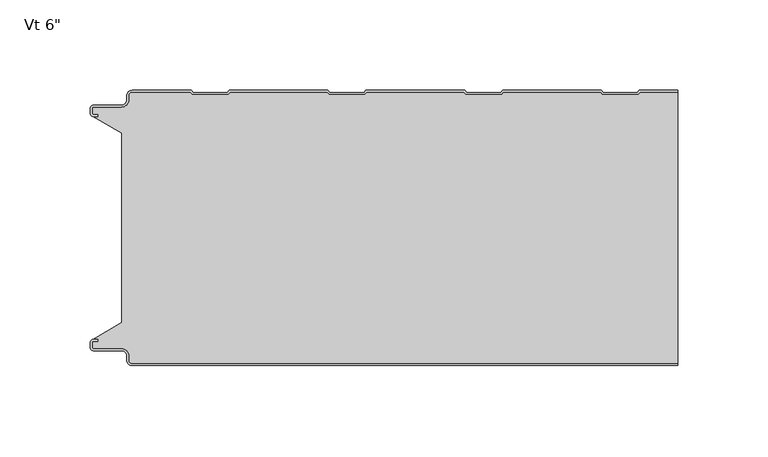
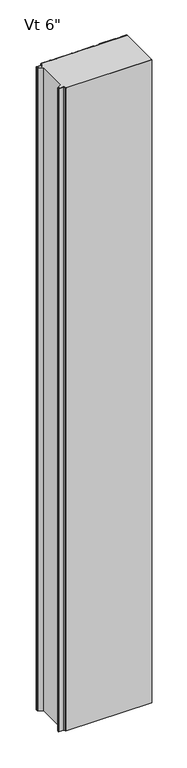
"""IFC4 building model written with IfcOpenShell, lengths in millimetres: plate geometry."""

from ifc_helpers import new_model, si_unit, frame, origin, place, context, project, spatial, polyline, circle_curve, source, transform, mapped, element, save
from ifc_brep_helpers import plane_surface, cylinder_surface, revolved_surface, advanced_brep


def plate_3bc6385e(model_context):
    return source(origin(), model_context, "Body", "AdvancedBrep", [
        advanced_brep(
        [(133.0522163, -1.0, 2400.0), (153.7374998, -1.0, 2400.0), (153.7374998, 0.0, 2400.0), (132.6097769, 0.0, 2400.0), (131.5372521, -1.1911595, 2400.0), (112.6391361, -1.1911595, 2400.0), (111.5666112, 0.0, 2400.0), (56.9871567, 0.0, 2400.0), (55.9146318, -1.1911595, 2400.0), (37.0165158, -1.1911595, 2400.0), (35.943991, 0.0, 2400.0), (-18.6354636, 0.0, 2400.0), (-19.7079884, -1.1911595, 2400.0), (-38.6061045, -1.1911595, 2400.0), (-39.6786293, 0.0, 2400.0), (-94.2580838, 0.0, 2400.0), (-95.3306087, -1.1911595, 2400.0), (-114.2287247, -1.1911595, 2400.0), (-115.3012496, 0.0, 2400.0), (-147.9102806, 0.0, 2400.0), (-150.8875472, -2.9772904, 2400.0), (-150.8875472, -5.2691742, 2400.0), (-153.8648158, -8.2464427, 2400.0), (-169.4612418, -8.2464427, 2400.0), (-171.0491183, -9.8343193, 2400.0), (-171.0491183, -12.905868, 2400.0), (-169.4612418, -14.4937445, 2400.0), (-167.1062063, -14.4937445, 2400.0), (-167.1062063, -13.4937445, 2400.0), (-169.4612418, -13.4937445, 2400.0), (-170.0491183, -12.905868, 2400.0), (-170.0491183, -9.8343193, 2400.0), (-169.4612418, -9.2464427, 2400.0), (-153.8648158, -9.2464427, 2400.0), (-149.8875472, -5.2691742, 2400.0), (-149.8875472, -2.9772904, 2400.0), (-147.9102799, -1.0000218, 2400.0), (-115.7436889, -1.0, 2400.0), (-114.671164, -2.1911595, 2400.0), (-94.8881694, -2.1911595, 2400.0), (-93.8156445, -1.0, 2400.0), (-40.1210686, -1.0, 2400.0), (-39.0485438, -2.1911595, 2400.0), (-19.2655491, -2.1911595, 2400.0), (-18.1930243, -1.0, 2400.0), (35.5015516, -1.0, 2400.0), (36.5740765, -2.1911595, 2400.0), (56.3570712, -2.1911595, 2400.0), (57.429596, -1.0, 2400.0), (111.1241719, -1.0, 2400.0), (112.1966967, -2.1911595, 2400.0), (131.9796914, -2.1911595, 2400.0), (132.6097769, 0.0, 0.0), (153.7374998, 0.0, 0.0), (153.7374998, -1.0, 0.0), (133.0522163, -1.0, 0.0), (131.9796914, -2.1911595, 0.0), (112.1966967, -2.1911595, 0.0), (111.1241719, -1.0, 0.0), (57.429596, -1.0, 0.0), (56.3570712, -2.1911595, 0.0), (36.5740765, -2.1911595, 0.0), (35.5015516, -1.0, 0.0), (-18.1930243, -1.0, 0.0), (-19.2655491, -2.1911595, 0.0), (-39.0485438, -2.1911595, 0.0), (-40.1210686, -1.0, 0.0), (-93.8156445, -1.0, 0.0), (-94.8881694, -2.1911595, 0.0), (-114.671164, -2.1911595, 0.0), (-115.7436889, -1.0, 0.0), (-147.9102799, -1.0, 0.0), (-149.8875472, -2.9772904, 0.0), (-149.8875472, -5.2691742, 0.0), (-153.8648158, -9.2464427, 0.0), (-169.4612418, -9.2464427, 0.0), (-170.0491183, -9.8343193, 0.0), (-170.0491183, -12.905868, 0.0), (-169.4612418, -13.4937445, 0.0), (-167.1062063, -13.4937445, 0.0), (-167.1062063, -14.4937445, 0.0), (-169.4612418, -14.4937445, 0.0), (-171.0491183, -12.905868, 0.0), (-171.0491183, -9.8343193, 0.0), (-169.4612418, -8.2464427, 0.0), (-153.8648158, -8.2464427, 0.0), (-150.8875472, -5.2691742, 0.0), (-150.8875472, -2.9772904, 0.0), (-147.9102806, -2.18e-05, 0.0), (-115.3012496, 0.0, 0.0), (-114.2287247, -1.1911595, 0.0), (-95.3306087, -1.1911595, 0.0), (-94.2580838, 0.0, 0.0), (-39.6786293, 0.0, 0.0), (-38.6061045, -1.1911595, 0.0), (-19.7079884, -1.1911595, 0.0), (-18.6354636, 0.0, 0.0), (35.943991, 0.0, 0.0), (37.0165158, -1.1911595, 0.0), (55.9146318, -1.1911595, 0.0), (56.9871567, 0.0, 0.0), (111.5666112, 0.0, 0.0), (112.6391361, -1.1911595, 0.0), (131.5372521, -1.1911595, 0.0)],
        [
            (0, 1),
            (1, 2),
            (2, 3),
            (3, 4),
            (4, 5),
            (5, 6),
            (6, 7),
            (7, 8),
            (8, 9),
            (9, 10),
            (10, 11),
            (11, 12),
            (12, 13),
            (13, 14),
            (14, 15),
            (15, 16),
            (16, 17),
            (17, 18),
            (18, 19),
            (19, 20, circle_curve(frame((-147.9102787, -2.9772904, 2400.0), z_axis=(0.0, 0.0, 1.0), x_axis=(0.0, 1.0, 0.0)), 2.9772685)),
            (20, 21),
            (21, 22, circle_curve(frame((-153.8648158, -5.2691742, 2400.0), z_axis=(0.0, 0.0, -1.0), x_axis=(0.0, 1.0, 0.0)), 2.9772685)),
            (22, 23),
            (23, 24, circle_curve(frame((-169.4612418, -9.8343193, 2400.0), z_axis=(0.0, 0.0, 1.0), x_axis=(0.0, 1.0, 0.0)), 1.5878765)),
            (24, 25),
            (25, 26, circle_curve(frame((-169.4612418, -12.905868, 2400.0), z_axis=(0.0, 0.0, 1.0), x_axis=(0.0, 1.0, 0.0)), 1.5878765)),
            (26, 27),
            (27, 28),
            (28, 29),
            (29, 30, circle_curve(frame((-169.4612418, -12.905868, 2400.0), z_axis=(0.0, 0.0, -1.0), x_axis=(0.0, 1.0, 0.0)), 0.5878765)),
            (30, 31),
            (31, 32, circle_curve(frame((-169.4612418, -9.8343193, 2400.0), z_axis=(0.0, 0.0, -1.0), x_axis=(0.0, 1.0, 0.0)), 0.5878765)),
            (32, 33),
            (33, 34, circle_curve(frame((-153.8648158, -5.2691742, 2400.0), z_axis=(0.0, 0.0, 1.0), x_axis=(0.0, 1.0, 0.0)), 3.9772685)),
            (34, 35),
            (35, 36, circle_curve(frame((-147.9102787, -2.9772904, 2400.0), z_axis=(0.0, 0.0, -1.0), x_axis=(0.0, 1.0, 0.0)), 1.9772685)),
            (36, 37),
            (37, 38),
            (38, 39),
            (39, 40),
            (40, 41),
            (41, 42),
            (42, 43),
            (43, 44),
            (44, 45),
            (45, 46),
            (46, 47),
            (47, 48),
            (48, 49),
            (49, 50),
            (50, 51),
            (51, 0),
            (52, 53),
            (53, 54),
            (54, 55),
            (55, 56),
            (56, 57),
            (57, 58),
            (58, 59),
            (59, 60),
            (60, 61),
            (61, 62),
            (62, 63),
            (63, 64),
            (64, 65),
            (65, 66),
            (66, 67),
            (67, 68),
            (68, 69),
            (69, 70),
            (70, 71),
            (71, 72, circle_curve(frame((-147.9102787, -2.9772904, 0.0), z_axis=(0.0, 0.0, 1.0), x_axis=(0.0, 1.0, 0.0)), 1.9772685)),
            (72, 73),
            (73, 74, circle_curve(frame((-153.8648158, -5.2691742, 0.0), z_axis=(0.0, 0.0, -1.0), x_axis=(0.0, 1.0, 0.0)), 3.9772685)),
            (74, 75),
            (75, 76, circle_curve(frame((-169.4612418, -9.8343193, 0.0), z_axis=(0.0, 0.0, 1.0), x_axis=(0.0, 1.0, 0.0)), 0.5878765)),
            (76, 77),
            (77, 78, circle_curve(frame((-169.4612418, -12.905868, 0.0), z_axis=(0.0, 0.0, 1.0), x_axis=(0.0, 1.0, 0.0)), 0.5878765)),
            (78, 79),
            (79, 80),
            (80, 81),
            (81, 82, circle_curve(frame((-169.4612418, -12.905868, 0.0), z_axis=(0.0, 0.0, -1.0), x_axis=(0.0, 1.0, 0.0)), 1.5878765)),
            (82, 83),
            (83, 84, circle_curve(frame((-169.4612418, -9.8343193, 0.0), z_axis=(0.0, 0.0, -1.0), x_axis=(0.0, 1.0, 0.0)), 1.5878765)),
            (84, 85),
            (85, 86, circle_curve(frame((-153.8648158, -5.2691742, 0.0), z_axis=(0.0, 0.0, 1.0), x_axis=(0.0, 1.0, 0.0)), 2.9772685)),
            (86, 87),
            (87, 88, circle_curve(frame((-147.9102787, -2.9772904, 0.0), z_axis=(0.0, 0.0, -1.0), x_axis=(0.0, 1.0, 0.0)), 2.9772685)),
            (88, 89),
            (89, 90),
            (90, 91),
            (91, 92),
            (92, 93),
            (93, 94),
            (94, 95),
            (95, 96),
            (96, 97),
            (97, 98),
            (98, 99),
            (99, 100),
            (100, 101),
            (101, 102),
            (102, 103),
            (103, 52),
            (54, 1),
            (0, 55),
            (51, 56),
            (50, 57),
            (49, 58),
            (48, 59),
            (47, 60),
            (46, 61),
            (45, 62),
            (44, 63),
            (43, 64),
            (42, 65),
            (41, 66),
            (40, 67),
            (39, 68),
            (38, 69),
            (37, 70),
            (36, 71),
            (35, 72),
            (34, 73),
            (33, 74),
            (32, 75),
            (31, 76),
            (30, 77),
            (29, 78),
            (28, 79),
            (27, 80),
            (26, 81),
            (25, 82),
            (24, 83),
            (23, 84),
            (22, 85),
            (21, 86),
            (20, 87),
            (19, 88),
            (18, 89),
            (17, 90),
            (16, 91),
            (15, 92),
            (14, 93),
            (13, 94),
            (12, 95),
            (11, 96),
            (10, 97),
            (9, 98),
            (8, 99),
            (7, 100),
            (6, 101),
            (5, 102),
            (4, 103),
            (3, 52),
            (2, 53),
        ],
        [
            plane_surface(frame((422.5250002, 0.0, 2400.0), z_axis=(0.0, 0.0, 1.0), x_axis=(0.0, 1.0, 0.0))),
            plane_surface(frame((422.5250002, 0.0, 0.0), z_axis=(0.0, 0.0, -1.0), x_axis=(0.0, 1.0, 0.0))),
            plane_surface(frame((186.7467922, -1.0, 2400.0), z_axis=(0.0, -1.0, 0.0), x_axis=(0.0, 0.0, -1.0))),
            plane_surface(frame((133.0522163, -1.0, 2400.0), z_axis=(0.7431448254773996, -0.6691306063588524, 0.0), x_axis=(0.0, 0.0, -1.0))),
            plane_surface(frame((131.9796914, -2.1911595, 2400.0), z_axis=(0.0, -1.0, 0.0), x_axis=(0.0, 0.0, -1.0))),
            plane_surface(frame((112.1966967, -2.1911595, 2400.0), z_axis=(-0.7431448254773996, -0.6691306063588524, 0.0), x_axis=(0.0, 0.0, -1.0))),
            plane_surface(frame((111.1241719, -1.0, 2400.0), z_axis=(0.0, -1.0, 0.0), x_axis=(0.0, 0.0, -1.0))),
            plane_surface(frame((57.429596, -1.0, 2400.0), z_axis=(0.7431448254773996, -0.6691306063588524, 0.0), x_axis=(0.0, 0.0, -1.0))),
            plane_surface(frame((56.3570712, -2.1911595, 2400.0), z_axis=(0.0, -1.0, 0.0), x_axis=(0.0, 0.0, -1.0))),
            plane_surface(frame((36.5740765, -2.1911595, 2400.0), z_axis=(-0.7431448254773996, -0.6691306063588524, 0.0), x_axis=(0.0, 0.0, -1.0))),
            plane_surface(frame((35.5015516, -1.0, 2400.0), z_axis=(0.0, -1.0, 0.0), x_axis=(0.0, 0.0, -1.0))),
            plane_surface(frame((-18.1930243, -1.0, 2400.0), z_axis=(0.7431448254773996, -0.6691306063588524, 0.0), x_axis=(0.0, 0.0, -1.0))),
            plane_surface(frame((-19.2655491, -2.1911595, 2400.0), z_axis=(0.0, -1.0, 0.0), x_axis=(0.0, 0.0, -1.0))),
            plane_surface(frame((-39.0485438, -2.1911595, 2400.0), z_axis=(-0.7431448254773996, -0.6691306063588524, 0.0), x_axis=(0.0, 0.0, -1.0))),
            plane_surface(frame((-40.1210686, -1.0, 2400.0), z_axis=(0.0, -1.0, 0.0), x_axis=(0.0, 0.0, -1.0))),
            plane_surface(frame((-93.8156445, -1.0, 2400.0), z_axis=(0.7431448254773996, -0.6691306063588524, 0.0), x_axis=(0.0, 0.0, -1.0))),
            plane_surface(frame((-94.8881694, -2.1911595, 2400.0), z_axis=(0.0, -1.0, 0.0), x_axis=(0.0, 0.0, -1.0))),
            plane_surface(frame((-114.671164, -2.1911595, 2400.0), z_axis=(-0.7431448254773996, -0.6691306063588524, 0.0), x_axis=(0.0, 0.0, -1.0))),
            plane_surface(frame((-115.7436889, -1.0, 2400.0), z_axis=(0.0, -1.0, 0.0), x_axis=(0.0, 0.0, -1.0))),
            revolved_surface(polyline([(-147.9102787, -1.0000218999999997, 0.0), (-147.9102787, -1.0000218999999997, 2400.0)]), (-147.9102787, -2.9772904, 2400.0), (0.0, 0.0, -1.0)),
            plane_surface(frame((-149.8875472, -2.9772904, 2400.0), z_axis=(1.0, 0.0, 0.0), x_axis=(0.0, 0.0, -1.0))),
            cylinder_surface(frame((-153.8648158, -5.2691742, 2400.0), z_axis=(0.0, 0.0, 1.0), x_axis=(0.0, 1.0, 0.0)), 3.9772685),
            plane_surface(frame((-153.8648158, -9.2464427, 2400.0), z_axis=(0.0, -1.0, 0.0), x_axis=(0.0, 0.0, -1.0))),
            revolved_surface(polyline([(-169.4612418, -9.2464428, 0.0), (-169.4612418, -9.2464428, 2400.0)]), (-169.4612418, -9.8343193, 2400.0), (0.0, 0.0, -1.0)),
            plane_surface(frame((-170.0491183, -9.8343193, 2400.0), z_axis=(1.0, 0.0, 0.0), x_axis=(0.0, 0.0, -1.0))),
            revolved_surface(polyline([(-169.4612418, -12.3179915, 0.0), (-169.4612418, -12.3179915, 2400.0)]), (-169.4612418, -12.905868, 2400.0), (0.0, 0.0, -1.0)),
            plane_surface(frame((-169.4612418, -13.4937445, 2400.0), z_axis=(0.0, 1.0, 0.0), x_axis=(0.0, 0.0, -1.0))),
            plane_surface(frame((-167.1062063, -13.4937445, 2400.0), z_axis=(1.0, 0.0, 0.0), x_axis=(0.0, 0.0, -1.0))),
            plane_surface(frame((-167.1062063, -14.4937445, 2400.0), z_axis=(0.0, -1.0, 0.0), x_axis=(0.0, 0.0, -1.0))),
            cylinder_surface(frame((-169.4612418, -12.905868, 2400.0), z_axis=(0.0, 0.0, 1.0), x_axis=(0.0, 1.0, 0.0)), 1.5878765),
            plane_surface(frame((-171.0491183, -12.905868, 2400.0), z_axis=(-1.0, 0.0, 0.0), x_axis=(0.0, 0.0, -1.0))),
            cylinder_surface(frame((-169.4612418, -9.8343193, 2400.0), z_axis=(0.0, 0.0, 1.0), x_axis=(0.0, 1.0, 0.0)), 1.5878765),
            plane_surface(frame((-169.4612418, -8.2464427, 2400.0), z_axis=(0.0, 1.0, 0.0), x_axis=(0.0, 0.0, -1.0))),
            revolved_surface(polyline([(-153.8648158, -2.2919057, 0.0), (-153.8648158, -2.2919057, 2400.0)]), (-153.8648158, -5.2691742, 2400.0), (0.0, 0.0, -1.0)),
            plane_surface(frame((-150.8875472, -5.2691742, 2400.0), z_axis=(-1.0, 0.0, 0.0), x_axis=(0.0, 0.0, -1.0))),
            cylinder_surface(frame((-147.9102787, -2.9772904, 2400.0), z_axis=(0.0, 0.0, 1.0), x_axis=(0.0, 1.0, 0.0)), 2.9772685),
            plane_surface(frame((-147.9102806, 0.0, 2400.0), z_axis=(0.0, 1.0, 0.0), x_axis=(0.0, 0.0, -1.0))),
            plane_surface(frame((-115.3012496, 0.0, 2400.0), z_axis=(0.7431448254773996, 0.6691306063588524, 0.0), x_axis=(0.0, 0.0, -1.0))),
            plane_surface(frame((-114.2287247, -1.1911595, 2400.0), z_axis=(0.0, 1.0, 0.0), x_axis=(0.0, 0.0, -1.0))),
            plane_surface(frame((-95.3306087, -1.1911595, 2400.0), z_axis=(-0.7431448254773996, 0.6691306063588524, 0.0), x_axis=(0.0, 0.0, -1.0))),
            plane_surface(frame((-94.2580838, 0.0, 2400.0), z_axis=(0.0, 1.0, 0.0), x_axis=(0.0, 0.0, -1.0))),
            plane_surface(frame((-39.6786293, 0.0, 2400.0), z_axis=(0.7431448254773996, 0.6691306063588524, 0.0), x_axis=(0.0, 0.0, -1.0))),
            plane_surface(frame((-38.6061045, -1.1911595, 2400.0), z_axis=(0.0, 1.0, 0.0), x_axis=(0.0, 0.0, -1.0))),
            plane_surface(frame((-19.7079884, -1.1911595, 2400.0), z_axis=(-0.7431448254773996, 0.6691306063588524, 0.0), x_axis=(0.0, 0.0, -1.0))),
            plane_surface(frame((-18.6354636, 0.0, 2400.0), z_axis=(0.0, 1.0, 0.0), x_axis=(0.0, 0.0, -1.0))),
            plane_surface(frame((35.943991, 0.0, 2400.0), z_axis=(0.7431448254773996, 0.6691306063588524, 0.0), x_axis=(0.0, 0.0, -1.0))),
            plane_surface(frame((37.0165158, -1.1911595, 2400.0), z_axis=(0.0, 1.0, 0.0), x_axis=(0.0, 0.0, -1.0))),
            plane_surface(frame((55.9146318, -1.1911595, 2400.0), z_axis=(-0.7431448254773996, 0.6691306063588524, 0.0), x_axis=(0.0, 0.0, -1.0))),
            plane_surface(frame((56.9871567, 0.0, 2400.0), z_axis=(0.0, 1.0, 0.0), x_axis=(0.0, 0.0, -1.0))),
            plane_surface(frame((111.5666112, 0.0, 2400.0), z_axis=(0.7431448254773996, 0.6691306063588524, 0.0), x_axis=(0.0, 0.0, -1.0))),
            plane_surface(frame((112.6391361, -1.1911595, 2400.0), z_axis=(0.0, 1.0, 0.0), x_axis=(0.0, 0.0, -1.0))),
            plane_surface(frame((131.5372521, -1.1911595, 2400.0), z_axis=(-0.7431448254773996, 0.6691306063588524, 0.0), x_axis=(0.0, 0.0, -1.0))),
            plane_surface(frame((132.6097769, 0.0, 2400.0), z_axis=(0.0, 1.0, 0.0), x_axis=(0.0, 0.0, -1.0))),
            plane_surface(frame((153.7374998, -162.4, 2400.0), z_axis=(1.0, 0.0, 0.0), x_axis=(0.0, 0.0, -1.0))),
        ],
        [
            (0, [[1, 2, 3, 4, 5, 6, 7, 8, 9, 10, 11, 12, 13, 14, 15, 16, 17, 18, 19, 20, 21, 22, 23, 24, 25, 26, 27, 28, 29, 30, 31, 32, 33, 34, 35, 36, 37, 38, 39, 40, 41, 42, 43, 44, 45, 46, 47, 48, 49, 50, 51, 52]]),
            (1, [[53, 54, 55, 56, 57, 58, 59, 60, 61, 62, 63, 64, 65, 66, 67, 68, 69, 70, 71, 72, 73, 74, 75, 76, 77, 78, 79, 80, 81, 82, 83, 84, 85, 86, 87, 88, 89, 90, 91, 92, 93, 94, 95, 96, 97, 98, 99, 100, 101, 102, 103, 104]]),
            (2, [[-55, 105, -1, 106]]),
            (3, [[107, -56, -106, -52]]),
            (4, [[108, -57, -107, -51]]),
            (5, [[109, -58, -108, -50]]),
            (6, [[110, -59, -109, -49]]),
            (7, [[111, -60, -110, -48]]),
            (8, [[112, -61, -111, -47]]),
            (9, [[113, -62, -112, -46]]),
            (10, [[114, -63, -113, -45]]),
            (11, [[115, -64, -114, -44]]),
            (12, [[116, -65, -115, -43]]),
            (13, [[117, -66, -116, -42]]),
            (14, [[118, -67, -117, -41]]),
            (15, [[119, -68, -118, -40]]),
            (16, [[120, -69, -119, -39]]),
            (17, [[121, -70, -120, -38]]),
            (18, [[122, -71, -121, -37]]),
            (19, [[123, -72, -122, -36]]),
            (20, [[124, -73, -123, -35]]),
            (21, [[125, -74, -124, -34]]),
            (22, [[126, -75, -125, -33]]),
            (23, [[127, -76, -126, -32]]),
            (24, [[128, -77, -127, -31]]),
            (25, [[129, -78, -128, -30]]),
            (26, [[130, -79, -129, -29]]),
            (27, [[131, -80, -130, -28]]),
            (28, [[132, -81, -131, -27]]),
            (29, [[133, -82, -132, -26]]),
            (30, [[134, -83, -133, -25]]),
            (31, [[135, -84, -134, -24]]),
            (32, [[136, -85, -135, -23]]),
            (33, [[137, -86, -136, -22]]),
            (34, [[138, -87, -137, -21]]),
            (35, [[139, -88, -138, -20]]),
            (36, [[140, -89, -139, -19]]),
            (37, [[141, -90, -140, -18]]),
            (38, [[142, -91, -141, -17]]),
            (39, [[143, -92, -142, -16]]),
            (40, [[144, -93, -143, -15]]),
            (41, [[145, -94, -144, -14]]),
            (42, [[146, -95, -145, -13]]),
            (43, [[147, -96, -146, -12]]),
            (44, [[148, -97, -147, -11]]),
            (45, [[149, -98, -148, -10]]),
            (46, [[150, -99, -149, -9]]),
            (47, [[151, -100, -150, -8]]),
            (48, [[152, -101, -151, -7]]),
            (49, [[153, -102, -152, -6]]),
            (50, [[154, -103, -153, -5]]),
            (51, [[155, -104, -154, -4]]),
            (52, [[-3, 156, -53, -155]]),
            (53, [[-105, -54, -156, -2]]),
        ],
    ),
        advanced_brep(
        [(-149.8873936, -149.4223811, 2400.0), (-149.8873936, -147.1308685, 2400.0), (-153.864739, -143.1535232, 2400.0), (-169.4612512, -143.1535232, 2400.0), (-170.0491084, -142.565666, 2400.0), (-170.0491084, -139.4941346, 2400.0), (-169.4612373, -138.9062635, 2400.0), (-167.1062063, -138.9062635, 2400.0), (-167.1062063, -137.9062599, 2400.0), (-169.4612418, -137.9062599, 2400.0), (-171.0491183, -139.4941364, 2400.0), (-171.0491183, -142.5656851, 2400.0), (-169.4612418, -144.1535616, 2400.0), (-153.8648158, -144.1535616, 2400.0), (-150.8875472, -147.1308302, 2400.0), (-150.8875472, -149.422714, 2400.0), (-147.9102787, -152.3999825, 2400.0), (153.7374998, -152.4, 2400.0), (153.7374998, -151.3992912, 2400.0), (-147.9104835, -151.3992912, 2400.0), (-149.8873936, -149.4223811, 0.0), (-147.9104835, -151.3992912, 0.0), (153.7374998, -151.3992912, 0.0), (153.7374998, -152.4, 0.0), (-147.9102787, -152.4, 0.0), (-150.8875472, -149.422714, 0.0), (-150.8875472, -147.1308302, 0.0), (-153.8648158, -144.1535616, 0.0), (-169.4612418, -144.1535616, 0.0), (-171.0491183, -142.5656851, 0.0), (-171.0491183, -139.4941364, 0.0), (-169.4612418, -137.9062599, 0.0), (-167.1062063, -137.9062599, 0.0), (-167.1062063, -138.9062635, 0.0), (-169.4612373, -138.9062635, 0.0), (-170.0491084, -139.4941346, 0.0), (-170.0491084, -142.565666, 0.0), (-169.4612512, -143.1535232, 0.0), (-153.864739, -143.1535232, 0.0), (-149.8873936, -147.1308685, 0.0)],
        [
            (0, 1),
            (1, 2, circle_curve(frame((-153.864739, -147.1308685, 2400.0), z_axis=(0.0, 0.0, 1.0), x_axis=(-1.0, 0.0, 0.0)), 3.9773454)),
            (2, 3),
            (3, 4, circle_curve(frame((-169.4612512, -142.565666, 2400.0), z_axis=(0.0, 0.0, -1.0), x_axis=(-1.0, 0.0, 0.0)), 0.5878572)),
            (4, 5),
            (5, 6, circle_curve(frame((-169.4612373, -139.4941346, 2400.0), z_axis=(0.0, 0.0, -1.0), x_axis=(-1.0, 0.0, 0.0)), 0.5878711)),
            (6, 7),
            (7, 8),
            (8, 9),
            (9, 10, circle_curve(frame((-169.4612418, -139.4941364, 2400.0), z_axis=(0.0, 0.0, 1.0), x_axis=(-1.0, 0.0, 0.0)), 1.5878765)),
            (10, 11),
            (11, 12, circle_curve(frame((-169.4612418, -142.5656851, 2400.0), z_axis=(0.0, 0.0, 1.0), x_axis=(-1.0, 0.0, 0.0)), 1.5878765)),
            (12, 13),
            (13, 14, circle_curve(frame((-153.8648158, -147.1308302, 2400.0), z_axis=(0.0, 0.0, -1.0), x_axis=(-1.0, 0.0, 0.0)), 2.9772685)),
            (14, 15),
            (15, 16, circle_curve(frame((-147.9102787, -149.422714, 2400.0), z_axis=(0.0, 0.0, 1.0), x_axis=(-1.0, 0.0, 0.0)), 2.9772685)),
            (16, 17),
            (17, 18),
            (18, 19),
            (19, 0, circle_curve(frame((-147.9104835, -149.4223811, 2400.0), z_axis=(0.0, 0.0, -1.0), x_axis=(-1.0, 0.0, 0.0)), 1.9769101)),
            (20, 21, circle_curve(frame((-147.9104835, -149.4223811, 0.0), z_axis=(0.0, 0.0, 1.0), x_axis=(-1.0, 0.0, 0.0)), 1.9769101)),
            (21, 22),
            (22, 23),
            (23, 24),
            (24, 25, circle_curve(frame((-147.9102787, -149.422714, 0.0), z_axis=(0.0, 0.0, -1.0), x_axis=(-1.0, 0.0, 0.0)), 2.9772685)),
            (25, 26),
            (26, 27, circle_curve(frame((-153.8648158, -147.1308302, 0.0), z_axis=(0.0, 0.0, 1.0), x_axis=(-1.0, 0.0, 0.0)), 2.9772685)),
            (27, 28),
            (28, 29, circle_curve(frame((-169.4612418, -142.5656851, 0.0), z_axis=(0.0, 0.0, -1.0), x_axis=(-1.0, 0.0, 0.0)), 1.5878765)),
            (29, 30),
            (30, 31, circle_curve(frame((-169.4612418, -139.4941364, 0.0), z_axis=(0.0, 0.0, -1.0), x_axis=(-1.0, 0.0, 0.0)), 1.5878765)),
            (31, 32),
            (32, 33),
            (33, 34),
            (34, 35, circle_curve(frame((-169.4612373, -139.4941346, 0.0), z_axis=(0.0, 0.0, 1.0), x_axis=(-1.0, 0.0, 0.0)), 0.5878711)),
            (35, 36),
            (36, 37, circle_curve(frame((-169.4612512, -142.565666, 0.0), z_axis=(0.0, 0.0, 1.0), x_axis=(-1.0, 0.0, 0.0)), 0.5878572)),
            (37, 38),
            (38, 39, circle_curve(frame((-153.864739, -147.1308685, 0.0), z_axis=(0.0, 0.0, -1.0), x_axis=(-1.0, 0.0, 0.0)), 3.9773454)),
            (39, 20),
            (17, 23),
            (22, 18),
            (16, 24),
            (21, 19),
            (20, 0),
            (39, 1),
            (38, 2),
            (37, 3),
            (4, 36),
            (35, 5),
            (34, 6),
            (33, 7),
            (32, 8),
            (31, 9),
            (30, 10),
            (29, 11),
            (28, 12),
            (27, 13),
            (26, 14),
            (25, 15),
        ],
        [
            plane_surface(frame((422.5250002, -152.4, 2400.0), z_axis=(0.0, 0.0, 1.0), x_axis=(0.0, -1.0, 0.0))),
            plane_surface(frame((422.5250002, -152.4, 0.0), z_axis=(0.0, 0.0, -1.0), x_axis=(0.0, -1.0, 0.0))),
            plane_surface(frame((153.7374998, -162.4, 2400.0), z_axis=(1.0, 0.0, 0.0), x_axis=(0.0, 0.0, -1.0))),
            plane_surface(frame((997.0725653, -152.4, 2400.0), z_axis=(0.0, -1.0, 0.0), x_axis=(0.0, 0.0, -1.0))),
            plane_surface(frame((-147.9104835, -151.3992912, 2400.0), z_axis=(0.0, 1.0, 0.0), x_axis=(0.0, 0.0, -1.0))),
            revolved_surface(polyline([(-149.8873936, -149.4223811, 0.0), (-149.8873936, -149.4223811, 2400.0)]), (-147.9104835, -149.4223811, 2400.0), (0.0, 0.0, -1.0)),
            plane_surface(frame((-149.8873936, -147.1308685, 2400.0), z_axis=(1.0, 0.0, 0.0), x_axis=(0.0, 0.0, -1.0))),
            cylinder_surface(frame((-153.864739, -147.1308685, 2400.0), z_axis=(0.0, 0.0, 1.0), x_axis=(-1.0, 0.0, 0.0)), 3.9773454),
            plane_surface(frame((-169.4612512, -143.1535232, 2400.0), z_axis=(0.0, 1.0, 0.0), x_axis=(0.0, 0.0, -1.0))),
            plane_surface(frame((-170.0491084, -139.4941346, 2400.0), z_axis=(1.0, 0.0, 0.0), x_axis=(0.0, 0.0, -1.0))),
            revolved_surface(polyline([(-170.0491084, -139.4941346, 0.0), (-170.0491084, -139.4941346, 2400.0)]), (-169.4612373, -139.4941346, 2400.0), (0.0, 0.0, -1.0)),
            plane_surface(frame((-167.1062063, -138.9062635, 2400.0), z_axis=(0.0, -1.0, 0.0), x_axis=(0.0, 0.0, -1.0))),
            plane_surface(frame((-167.1062063, -137.9062599, 2400.0), z_axis=(1.0, 0.0, 0.0), x_axis=(0.0, 0.0, -1.0))),
            plane_surface(frame((-169.4612418, -137.9062599, 2400.0), z_axis=(0.0, 1.0, 0.0), x_axis=(0.0, 0.0, -1.0))),
            cylinder_surface(frame((-169.4612418, -139.4941364, 2400.0), z_axis=(0.0, 0.0, 1.0), x_axis=(-1.0, 0.0, 0.0)), 1.5878765),
            plane_surface(frame((-171.0491183, -142.5656851, 2400.0), z_axis=(-1.0, 0.0, 0.0), x_axis=(0.0, 0.0, -1.0))),
            cylinder_surface(frame((-169.4612418, -142.5656851, 2400.0), z_axis=(0.0, 0.0, 1.0), x_axis=(-1.0, 0.0, 0.0)), 1.5878765),
            plane_surface(frame((-153.8648158, -144.1535616, 2400.0), z_axis=(0.0, -1.0, 0.0), x_axis=(0.0, 0.0, -1.0))),
            revolved_surface(polyline([(-156.8420843, -147.1308302, 0.0), (-156.8420843, -147.1308302, 2400.0)]), (-153.8648158, -147.1308302, 2400.0), (0.0, 0.0, -1.0)),
            plane_surface(frame((-150.8875472, -149.422714, 2400.0), z_axis=(-1.0, 0.0, 0.0), x_axis=(0.0, 0.0, -1.0))),
            cylinder_surface(frame((-147.9102787, -149.422714, 2400.0), z_axis=(0.0, 0.0, 1.0), x_axis=(-1.0, 0.0, 0.0)), 2.9772685),
            revolved_surface(polyline([(-170.0491084, -142.565666, 0.0), (-170.0491084, -142.565666, 2400.0)]), (-169.4612512, -142.565666, 2400.0), (0.0, 0.0, -1.0)),
        ],
        [
            (0, [[1, 2, 3, 4, 5, 6, 7, 8, 9, 10, 11, 12, 13, 14, 15, 16, 17, 18, 19, 20]]),
            (1, [[21, 22, 23, 24, 25, 26, 27, 28, 29, 30, 31, 32, 33, 34, 35, 36, 37, 38, 39, 40]]),
            (2, [[41, -23, 42, -18]]),
            (3, [[-24, -41, -17, 43]]),
            (4, [[-19, -42, -22, 44]]),
            (5, [[-44, -21, 45, -20]]),
            (6, [[-45, -40, 46, -1]]),
            (7, [[-46, -39, 47, -2]]),
            (8, [[-47, -38, 48, -3]]),
            (9, [[49, -36, 50, -5]]),
            (10, [[-50, -35, 51, -6]]),
            (11, [[-51, -34, 52, -7]]),
            (12, [[-52, -33, 53, -8]]),
            (13, [[-53, -32, 54, -9]]),
            (14, [[-54, -31, 55, -10]]),
            (15, [[-55, -30, 56, -11]]),
            (16, [[-56, -29, 57, -12]]),
            (17, [[-57, -28, 58, -13]]),
            (18, [[-58, -27, 59, -14]]),
            (19, [[-59, -26, 60, -15]]),
            (20, [[-60, -25, -43, -16]]),
            (21, [[-48, -37, -49, -4]]),
        ],
    ),
        advanced_brep(
        [(-149.88755, -149.4227194, 2400.0), (-147.910276, -151.3999935, 2400.0), (153.7374998, -151.4, 2400.0), (153.7374998, -1.0, 2400.0), (133.0522163, -1.0, 2400.0), (131.9796914, -2.1911595, 2400.0), (112.1966967, -2.1911595, 2400.0), (111.1241719, -1.0, 2400.0), (57.429596, -1.0, 2400.0), (56.3570712, -2.1911595, 2400.0), (36.5740765, -2.1911595, 2400.0), (35.5015516, -1.0, 2400.0), (-18.1930243, -1.0, 2400.0), (-19.2655491, -2.1911595, 2400.0), (-39.0485438, -2.1911595, 2400.0), (-40.1210686, -1.0, 2400.0), (-93.8156445, -1.0, 2400.0), (-94.8881694, -2.1911595, 2400.0), (-114.671164, -2.1911595, 2400.0), (-115.7436889, -1.0000109, 2400.0), (-147.910276, -1.0000109, 2400.0), (-149.88755, -2.9772849, 2400.0), (-149.88755, -5.2691749, 2400.0), (-153.8648171, -9.246442, 2400.0), (-169.4612416, -9.246442, 2400.0), (-170.0491185, -9.8343189, 2400.0), (-170.0491185, -12.9058679, 2400.0), (-169.4612418, -13.4937446, 2400.0), (-167.1062063, -13.4937446, 2400.0), (-167.1062063, -14.4937446, 2400.0), (-169.395785, -14.4937446, 2400.0), (-153.7374998, -23.7509179, 2400.0), (-153.7374998, -128.6490865, 2400.0), (-169.395785, -137.9062598, 2400.0), (-167.1062063, -137.9062598, 2400.0), (-167.1062063, -138.9062598, 2400.0), (-169.4612418, -138.9062598, 2400.0), (-170.0491185, -139.4941365, 2400.0), (-170.0491185, -142.5656854, 2400.0), (-169.4612416, -143.1535623, 2400.0), (-153.8648171, -143.1535623, 2400.0), (-149.88755, -147.1308295, 2400.0), (-149.88755, -149.4227194, 0.0), (-149.88755, -147.1308295, 0.0), (-153.8648171, -143.1535623, 0.0), (-169.4612416, -143.1535623, 0.0), (-170.0491185, -142.5656854, 0.0), (-170.0491185, -139.4941365, 0.0), (-169.4612418, -138.9062598, 0.0), (-167.1062063, -138.9062598, 0.0), (-167.1062063, -137.9062598, 0.0), (-169.395785, -137.9062598, 0.0), (-153.7374998, -128.6490865, 0.0), (-153.7374998, -23.7509179, 0.0), (-169.395785, -14.4937446, 0.0), (-167.1062063, -14.4937446, 0.0), (-167.1062063, -13.4937446, 0.0), (-169.4612418, -13.4937446, 0.0), (-170.0491185, -12.9058679, 0.0), (-170.0491185, -9.8343189, 0.0), (-169.4612416, -9.246442, 0.0), (-153.8648171, -9.246442, 0.0), (-149.88755, -5.2691749, 0.0), (-149.88755, -2.9772849, 0.0), (-147.910276, -1.0000109, 0.0), (-115.7436889, -1.0000109, 0.0), (-114.671164, -2.1911595, 0.0), (-94.8881694, -2.1911595, 0.0), (-93.8156445, -1.0, 0.0), (-40.1210686, -1.0, 0.0), (-39.0485438, -2.1911595, 0.0), (-19.2655491, -2.1911595, 0.0), (-18.1930243, -1.0, 0.0), (35.5015516, -1.0, 0.0), (36.5740765, -2.1911595, 0.0), (56.3570712, -2.1911595, 0.0), (57.429596, -1.0, 0.0), (111.1241719, -1.0, 0.0), (112.1966967, -2.1911595, 0.0), (131.9796914, -2.1911595, 0.0), (133.0522163, -1.0, 0.0), (153.7374998, -1.0, 0.0), (153.7374998, -151.4, 0.0), (-147.910276, -151.4, 0.0)],
        [
            (0, 1, circle_curve(frame((-147.910276, -149.4227194, 2400.0), z_axis=(0.0, 0.0, 1.0), x_axis=(-1.0, 0.0, 0.0)), 1.977274)),
            (1, 2),
            (2, 3),
            (3, 4),
            (4, 5),
            (5, 6),
            (6, 7),
            (7, 8),
            (8, 9),
            (9, 10),
            (10, 11),
            (11, 12),
            (12, 13),
            (13, 14),
            (14, 15),
            (15, 16),
            (16, 17),
            (17, 18),
            (18, 19),
            (19, 20),
            (20, 21, circle_curve(frame((-147.910276, -2.9772849, 2400.0), z_axis=(0.0, 0.0, 1.0), x_axis=(0.0, 1.0, 0.0)), 1.977274)),
            (21, 22),
            (22, 23, circle_curve(frame((-153.8648171, -5.2691749, 2400.0), z_axis=(0.0, 0.0, -1.0), x_axis=(0.0, 1.0, 0.0)), 3.9772671)),
            (23, 24),
            (24, 25, circle_curve(frame((-169.4612416, -9.8343189, 2400.0), z_axis=(0.0, 0.0, 1.0), x_axis=(0.0, 1.0, 0.0)), 0.5878769)),
            (25, 26),
            (26, 27, circle_curve(frame((-169.4612418, -12.9058679, 2400.0), z_axis=(0.0, 0.0, 1.0), x_axis=(0.0, 1.0, 0.0)), 0.5878766)),
            (27, 28),
            (28, 29),
            (29, 30),
            (30, 31),
            (31, 32),
            (32, 33),
            (33, 34),
            (34, 35),
            (35, 36),
            (36, 37, circle_curve(frame((-169.4612418, -139.4941365, 2400.0), z_axis=(0.0, 0.0, 1.0), x_axis=(-1.0, 0.0, 0.0)), 0.5878766)),
            (37, 38),
            (38, 39, circle_curve(frame((-169.4612416, -142.5656854, 2400.0), z_axis=(0.0, 0.0, 1.0), x_axis=(-1.0, 0.0, 0.0)), 0.5878769)),
            (39, 40),
            (40, 41, circle_curve(frame((-153.8648171, -147.1308295, 2400.0), z_axis=(0.0, 0.0, -1.0), x_axis=(-1.0, 0.0, 0.0)), 3.9772671)),
            (41, 0),
            (42, 43),
            (43, 44, circle_curve(frame((-153.8648171, -147.1308295, 0.0), z_axis=(0.0, 0.0, 1.0), x_axis=(-1.0, 0.0, 0.0)), 3.9772671)),
            (44, 45),
            (45, 46, circle_curve(frame((-169.4612416, -142.5656854, 0.0), z_axis=(0.0, 0.0, -1.0), x_axis=(-1.0, 0.0, 0.0)), 0.5878769)),
            (46, 47),
            (47, 48, circle_curve(frame((-169.4612418, -139.4941365, 0.0), z_axis=(0.0, 0.0, -1.0), x_axis=(-1.0, 0.0, 0.0)), 0.5878766)),
            (48, 49),
            (49, 50),
            (50, 51),
            (51, 52),
            (52, 53),
            (53, 54),
            (54, 55),
            (55, 56),
            (56, 57),
            (57, 58, circle_curve(frame((-169.4612418, -12.9058679, 0.0), z_axis=(0.0, 0.0, -1.0), x_axis=(0.0, 1.0, 0.0)), 0.5878766)),
            (58, 59),
            (59, 60, circle_curve(frame((-169.4612416, -9.8343189, 0.0), z_axis=(0.0, 0.0, -1.0), x_axis=(0.0, 1.0, 0.0)), 0.5878769)),
            (60, 61),
            (61, 62, circle_curve(frame((-153.8648171, -5.2691749, 0.0), z_axis=(0.0, 0.0, 1.0), x_axis=(0.0, 1.0, 0.0)), 3.9772671)),
            (62, 63),
            (63, 64, circle_curve(frame((-147.910276, -2.9772849, 0.0), z_axis=(0.0, 0.0, -1.0), x_axis=(0.0, 1.0, 0.0)), 1.977274)),
            (64, 65),
            (65, 66),
            (66, 67),
            (67, 68),
            (68, 69),
            (69, 70),
            (70, 71),
            (71, 72),
            (72, 73),
            (73, 74),
            (74, 75),
            (75, 76),
            (76, 77),
            (77, 78),
            (78, 79),
            (79, 80),
            (80, 81),
            (81, 82),
            (82, 83),
            (83, 42, circle_curve(frame((-147.910276, -149.4227194, 0.0), z_axis=(0.0, 0.0, -1.0), x_axis=(-1.0, 0.0, 0.0)), 1.977274)),
            (31, 53),
            (52, 32),
            (30, 54),
            (29, 55),
            (28, 56),
            (27, 57),
            (26, 58),
            (25, 59),
            (24, 60),
            (23, 61),
            (22, 62),
            (21, 63),
            (20, 64),
            (19, 65),
            (18, 66),
            (17, 67),
            (16, 68),
            (15, 69),
            (14, 70),
            (13, 71),
            (12, 72),
            (11, 73),
            (10, 74),
            (9, 75),
            (8, 76),
            (7, 77),
            (6, 78),
            (5, 79),
            (4, 80),
            (3, 81),
            (2, 82),
            (41, 43),
            (42, 0),
            (40, 44),
            (39, 45),
            (38, 46),
            (37, 47),
            (36, 48),
            (35, 49),
            (34, 50),
            (33, 51),
            (1, 83),
        ],
        [
            plane_surface(frame((422.5250002, -151.4, 2400.0), z_axis=(0.0, 0.0, 1.0), x_axis=(0.0, -1.0, 0.0))),
            plane_surface(frame((422.5250002, -151.4, 0.0), z_axis=(0.0, 0.0, -1.0), x_axis=(0.0, -1.0, 0.0))),
            plane_surface(frame((-153.7374998, -128.6490865, 2400.0), z_axis=(-1.0, 0.0, 0.0), x_axis=(0.0, 0.0, -1.0))),
            plane_surface(frame((-153.7374998, -23.7509179, 2400.0), z_axis=(-0.5089147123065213, -0.860816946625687, 0.0), x_axis=(0.0, 0.0, -1.0))),
            plane_surface(frame((-169.395785, -14.4937446, 2400.0), z_axis=(0.0, 1.0, 0.0), x_axis=(0.0, 0.0, -1.0))),
            plane_surface(frame((-167.1062063, -14.4937446, 2400.0), z_axis=(-1.0, 0.0, 0.0), x_axis=(0.0, 0.0, -1.0))),
            plane_surface(frame((-167.1062063, -13.4937446, 2400.0), z_axis=(0.0, -1.0, 0.0), x_axis=(0.0, 0.0, -1.0))),
            cylinder_surface(frame((-169.4612418, -12.9058679, 2400.0), z_axis=(0.0, 0.0, 1.0), x_axis=(0.0, 1.0, 0.0)), 0.5878766),
            plane_surface(frame((-170.0491185, -12.9058679, 2400.0), z_axis=(-1.0, 0.0, 0.0), x_axis=(0.0, 0.0, -1.0))),
            cylinder_surface(frame((-169.4612416, -9.8343189, 2400.0), z_axis=(0.0, 0.0, 1.0), x_axis=(0.0, 1.0, 0.0)), 0.5878769),
            plane_surface(frame((-169.4612416, -9.246442, 2400.0), z_axis=(0.0, 1.0, 0.0), x_axis=(0.0, 0.0, -1.0))),
            revolved_surface(polyline([(-153.8648171, -1.2919078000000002, 0.0), (-153.8648171, -1.2919078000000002, 2400.0)]), (-153.8648171, -5.2691749, 2400.0), (0.0, 0.0, -1.0)),
            plane_surface(frame((-149.88755, -5.2691749, 2400.0), z_axis=(-1.0, 0.0, 0.0), x_axis=(0.0, 0.0, -1.0))),
            cylinder_surface(frame((-147.910276, -2.9772849, 2400.0), z_axis=(0.0, 0.0, 1.0), x_axis=(0.0, 1.0, 0.0)), 1.977274),
            plane_surface(frame((-147.910276, -1.0000109, 2400.0), z_axis=(0.0, 1.0, 0.0), x_axis=(0.0, 0.0, -1.0))),
            plane_surface(frame((-115.7436889, -1.0000109, 2400.0), z_axis=(0.7431417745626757, 0.669133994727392, 0.0), x_axis=(0.0, 0.0, -1.0))),
            plane_surface(frame((-114.671164, -2.1911595, 2400.0), z_axis=(0.0, 1.0, 0.0), x_axis=(0.0, 0.0, -1.0))),
            plane_surface(frame((-94.8881694, -2.1911595, 2400.0), z_axis=(-0.7431448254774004, 0.6691306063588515, 0.0), x_axis=(0.0, 0.0, -1.0))),
            plane_surface(frame((-93.8156445, -1.0, 2400.0), z_axis=(0.0, 1.0, 0.0), x_axis=(0.0, 0.0, -1.0))),
            plane_surface(frame((-40.1210686, -1.0, 2400.0), z_axis=(0.7431448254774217, 0.6691306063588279, 0.0), x_axis=(0.0, 0.0, -1.0))),
            plane_surface(frame((-39.0485438, -2.1911595, 2400.0), z_axis=(0.0, 1.0, 0.0), x_axis=(0.0, 0.0, -1.0))),
            plane_surface(frame((-19.2655491, -2.1911595, 2400.0), z_axis=(-0.7431448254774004, 0.6691306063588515, 0.0), x_axis=(0.0, 0.0, -1.0))),
            plane_surface(frame((-18.1930243, -1.0, 2400.0), z_axis=(0.0, 1.0, 0.0), x_axis=(0.0, 0.0, -1.0))),
            plane_surface(frame((35.5015516, -1.0, 2400.0), z_axis=(0.7431448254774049, 0.6691306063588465, 0.0), x_axis=(0.0, 0.0, -1.0))),
            plane_surface(frame((36.5740765, -2.1911595, 2400.0), z_axis=(0.0, 1.0, 0.0), x_axis=(0.0, 0.0, -1.0))),
            plane_surface(frame((56.3570712, -2.1911595, 2400.0), z_axis=(-0.7431448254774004, 0.6691306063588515, 0.0), x_axis=(0.0, 0.0, -1.0))),
            plane_surface(frame((57.429596, -1.0, 2400.0), z_axis=(0.0, 1.0, 0.0), x_axis=(0.0, 0.0, -1.0))),
            plane_surface(frame((111.1241719, -1.0, 2400.0), z_axis=(0.7431448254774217, 0.6691306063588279, 0.0), x_axis=(0.0, 0.0, -1.0))),
            plane_surface(frame((112.1966967, -2.1911595, 2400.0), z_axis=(0.0, 1.0, 0.0), x_axis=(0.0, 0.0, -1.0))),
            plane_surface(frame((131.9796914, -2.1911595, 2400.0), z_axis=(-0.7431448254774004, 0.6691306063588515, 0.0), x_axis=(0.0, 0.0, -1.0))),
            plane_surface(frame((133.0522163, -1.0, 2400.0), z_axis=(0.0, 1.0, 0.0), x_axis=(0.0, 0.0, -1.0))),
            plane_surface(frame((153.7374998, -162.4, 2400.0), z_axis=(1.0, 0.0, 0.0), x_axis=(0.0, 0.0, -1.0))),
            plane_surface(frame((-149.88755, -149.4227194, 2400.0), z_axis=(-1.0, 0.0, 0.0), x_axis=(0.0, 0.0, -1.0))),
            revolved_surface(polyline([(-157.84208420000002, -147.1308295, 0.0), (-157.84208420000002, -147.1308295, 2400.0)]), (-153.8648171, -147.1308295, 2400.0), (0.0, 0.0, -1.0)),
            plane_surface(frame((-153.8648171, -143.1535623, 2400.0), z_axis=(0.0, -1.0, 0.0), x_axis=(0.0, 0.0, -1.0))),
            cylinder_surface(frame((-169.4612416, -142.5656854, 2400.0), z_axis=(0.0, 0.0, 1.0), x_axis=(-1.0, 0.0, 0.0)), 0.5878769),
            plane_surface(frame((-170.0491185, -142.5656854, 2400.0), z_axis=(-1.0, 0.0, 0.0), x_axis=(0.0, 0.0, -1.0))),
            cylinder_surface(frame((-169.4612418, -139.4941365, 2400.0), z_axis=(0.0, 0.0, 1.0), x_axis=(-1.0, 0.0, 0.0)), 0.5878766),
            plane_surface(frame((-169.4612418, -138.9062598, 2400.0), z_axis=(0.0, 1.0, 0.0), x_axis=(0.0, 0.0, -1.0))),
            plane_surface(frame((-167.1062063, -138.9062598, 2400.0), z_axis=(-1.0, 0.0, 0.0), x_axis=(0.0, 0.0, -1.0))),
            plane_surface(frame((-167.1062063, -137.9062598, 2400.0), z_axis=(0.0, -1.0, 0.0), x_axis=(0.0, 0.0, -1.0))),
            plane_surface(frame((-169.395785, -137.9062598, 2400.0), z_axis=(-0.5089147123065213, 0.860816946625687, 0.0), x_axis=(0.0, 0.0, -1.0))),
            plane_surface(frame((997.0725653, -151.4, 2400.0), z_axis=(0.0, -1.0, 0.0), x_axis=(0.0, 0.0, -1.0))),
            cylinder_surface(frame((-147.910276, -149.4227194, 2400.0), z_axis=(0.0, 0.0, 1.0), x_axis=(-1.0, 0.0, 0.0)), 1.977274),
        ],
        [
            (0, [[1, 2, 3, 4, 5, 6, 7, 8, 9, 10, 11, 12, 13, 14, 15, 16, 17, 18, 19, 20, 21, 22, 23, 24, 25, 26, 27, 28, 29, 30, 31, 32, 33, 34, 35, 36, 37, 38, 39, 40, 41, 42]]),
            (1, [[43, 44, 45, 46, 47, 48, 49, 50, 51, 52, 53, 54, 55, 56, 57, 58, 59, 60, 61, 62, 63, 64, 65, 66, 67, 68, 69, 70, 71, 72, 73, 74, 75, 76, 77, 78, 79, 80, 81, 82, 83, 84]]),
            (2, [[85, -53, 86, -32]]),
            (3, [[87, -54, -85, -31]]),
            (4, [[88, -55, -87, -30]]),
            (5, [[89, -56, -88, -29]]),
            (6, [[90, -57, -89, -28]]),
            (7, [[91, -58, -90, -27]]),
            (8, [[92, -59, -91, -26]]),
            (9, [[93, -60, -92, -25]]),
            (10, [[94, -61, -93, -24]]),
            (11, [[95, -62, -94, -23]]),
            (12, [[96, -63, -95, -22]]),
            (13, [[97, -64, -96, -21]]),
            (14, [[98, -65, -97, -20]]),
            (15, [[99, -66, -98, -19]]),
            (16, [[100, -67, -99, -18]]),
            (17, [[101, -68, -100, -17]]),
            (18, [[102, -69, -101, -16]]),
            (19, [[103, -70, -102, -15]]),
            (20, [[104, -71, -103, -14]]),
            (21, [[105, -72, -104, -13]]),
            (22, [[106, -73, -105, -12]]),
            (23, [[107, -74, -106, -11]]),
            (24, [[108, -75, -107, -10]]),
            (25, [[109, -76, -108, -9]]),
            (26, [[110, -77, -109, -8]]),
            (27, [[111, -78, -110, -7]]),
            (28, [[112, -79, -111, -6]]),
            (29, [[113, -80, -112, -5]]),
            (30, [[-4, 114, -81, -113]]),
            (31, [[115, -82, -114, -3]]),
            (32, [[116, -43, 117, -42]]),
            (33, [[118, -44, -116, -41]]),
            (34, [[119, -45, -118, -40]]),
            (35, [[120, -46, -119, -39]]),
            (36, [[121, -47, -120, -38]]),
            (37, [[122, -48, -121, -37]]),
            (38, [[123, -49, -122, -36]]),
            (39, [[124, -50, -123, -35]]),
            (40, [[125, -51, -124, -34]]),
            (41, [[-86, -52, -125, -33]]),
            (42, [[-83, -115, -2, 126]]),
            (43, [[-117, -84, -126, -1]]),
        ],
    ),
    ])


if __name__ == "__main__":
    model = new_model("IFC4")
    model_context = context("Model", 3, world=origin())
    ifc_project = project(units=[si_unit("LENGTHUNIT", "METRE", prefix="MILLI")], contexts=[model_context])
    site = spatial("IfcSite", under=ifc_project)
    building = spatial("IfcBuilding", under=site)
    placement = place(None, origin())
    plate_shape = plate_3bc6385e(model_context)
    element("IfcPlate", 1, ObjectType="KIP-SLI-FLI-R19-CP-Vt-FL_SL : Vt 6\"", at=placement, inside=building, context=model_context, shape_type="MappedRepresentation", body=[
        mapped(plate_shape, transform((0.0, 0.0, 0.0), x_axis=(1.0, 0.0, 0.0), y_axis=(0.0, 1.0, 0.0), z_axis=(0.0, 0.0, 1.0))),
    ])
    save(model, "model.ifc")
